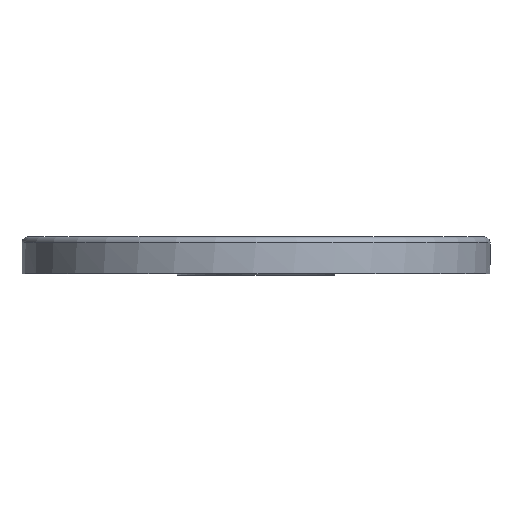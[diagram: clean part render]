
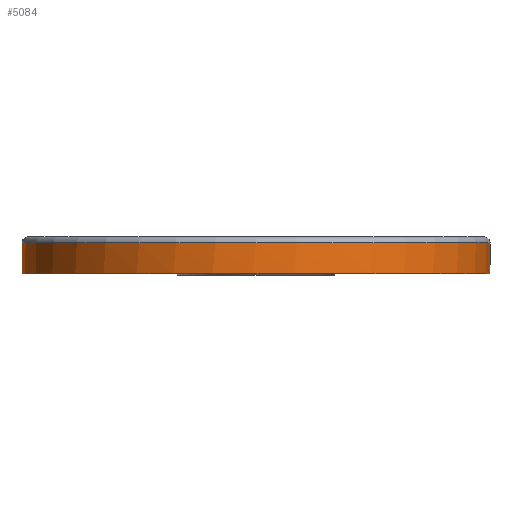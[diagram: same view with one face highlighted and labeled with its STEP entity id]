
A CAD part, left-side view. The second image highlights one B-rep face of the part: STEP entity #5084.
In plain terms, the highlighted cylindrical face has radius 76.5 mm (diameter 153 mm), a full revolution.
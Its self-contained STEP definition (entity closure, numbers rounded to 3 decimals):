
#68=CYLINDRICAL_SURFACE('',#5240,76.5);
#76=CIRCLE('',#5236,76.5);
#77=CIRCLE('',#5237,76.5);
#80=CIRCLE('',#5241,76.5);
#450=B_SPLINE_CURVE_WITH_KNOTS('',3,(#9725,#9726,#9727,#9728,#9729,#9730,
#9731,#9732,#9733,#9734),.UNSPECIFIED.,.F.,.F.,(4,2,2,2,4),(0.226,
0.283,0.339,0.396,0.452),
 .UNSPECIFIED.);
#451=B_SPLINE_CURVE_WITH_KNOTS('',3,(#9735,#9736,#9737,#9738,#9739,#9740,
#9741,#9742,#9743,#9744),.UNSPECIFIED.,.F.,.F.,(4,2,2,2,4),(0.,0.057,
0.113,0.17,0.226),.UNSPECIFIED.);
#912=FACE_OUTER_BOUND('',#1204,.T.);
#1204=EDGE_LOOP('',(#4420,#4421,#4422,#4423,#4424,#4425,#4426,#4427,#4428));
#1608=LINE('',#9694,#1970);
#1612=LINE('',#9703,#1974);
#1614=LINE('',#9755,#1976);
#1970=VECTOR('',#5831,10.);
#1974=VECTOR('',#5837,10.);
#1976=VECTOR('',#5855,76.5);
#2456=VERTEX_POINT('',#9691);
#2457=VERTEX_POINT('',#9693);
#2460=VERTEX_POINT('',#9700);
#2461=VERTEX_POINT('',#9702);
#2462=VERTEX_POINT('',#9724);
#2463=VERTEX_POINT('',#9746);
#2465=VERTEX_POINT('',#9753);
#3187=EDGE_CURVE('',#2457,#2456,#1608,.T.);
#3191=EDGE_CURVE('',#2461,#2460,#1612,.T.);
#3194=EDGE_CURVE('',#2462,#2461,#450,.T.);
#3195=EDGE_CURVE('',#2456,#2462,#451,.T.);
#3196=EDGE_CURVE('',#2457,#2463,#76,.T.);
#3197=EDGE_CURVE('',#2463,#2460,#77,.T.);
#3200=EDGE_CURVE('',#2465,#2465,#80,.T.);
#3201=EDGE_CURVE('',#2465,#2463,#1614,.T.);
#4420=ORIENTED_EDGE('',*,*,#3200,.F.);
#4421=ORIENTED_EDGE('',*,*,#3201,.T.);
#4422=ORIENTED_EDGE('',*,*,#3196,.F.);
#4423=ORIENTED_EDGE('',*,*,#3187,.T.);
#4424=ORIENTED_EDGE('',*,*,#3195,.T.);
#4425=ORIENTED_EDGE('',*,*,#3194,.T.);
#4426=ORIENTED_EDGE('',*,*,#3191,.T.);
#4427=ORIENTED_EDGE('',*,*,#3197,.F.);
#4428=ORIENTED_EDGE('',*,*,#3201,.F.);
#5084=ADVANCED_FACE('',(#912),#68,.T.);
#5236=AXIS2_PLACEMENT_3D('',#9747,#5843,#5844);
#5237=AXIS2_PLACEMENT_3D('',#9748,#5845,#5846);
#5240=AXIS2_PLACEMENT_3D('',#9752,#5851,#5852);
#5241=AXIS2_PLACEMENT_3D('',#9754,#5853,#5854);
#5831=DIRECTION('',(0.,0.,1.));
#5837=DIRECTION('',(0.,0.,-1.));
#5843=DIRECTION('center_axis',(0.,0.,-1.));
#5844=DIRECTION('ref_axis',(-1.,0.,0.));
#5845=DIRECTION('center_axis',(0.,0.,-1.));
#5846=DIRECTION('ref_axis',(-1.,0.,0.));
#5851=DIRECTION('center_axis',(0.,0.,1.));
#5852=DIRECTION('ref_axis',(-1.,0.,0.));
#5853=DIRECTION('center_axis',(0.,0.,1.));
#5854=DIRECTION('ref_axis',(-1.,0.,0.));
#5855=DIRECTION('',(0.,0.,-1.));
#9691=CARTESIAN_POINT('',(-1.5,-76.485,1.499));
#9693=CARTESIAN_POINT('',(-1.5,-76.485,0.));
#9694=CARTESIAN_POINT('',(-1.5,-76.485,0.));
#9700=CARTESIAN_POINT('',(1.5,-76.485,0.));
#9702=CARTESIAN_POINT('',(1.5,-76.485,1.499));
#9703=CARTESIAN_POINT('',(1.5,-76.485,0.));
#9724=CARTESIAN_POINT('',(0.,-76.5,2.999));
#9725=CARTESIAN_POINT('Ctrl Pts',(0.,-76.5,2.999));
#9726=CARTESIAN_POINT('Ctrl Pts',(0.188,-76.5,2.999));
#9727=CARTESIAN_POINT('Ctrl Pts',(0.389,-76.499,2.962));
#9728=CARTESIAN_POINT('Ctrl Pts',(0.759,-76.496,2.809));
#9729=CARTESIAN_POINT('Ctrl Pts',(0.927,-76.494,2.693));
#9730=CARTESIAN_POINT('Ctrl Pts',(1.194,-76.491,2.427));
#9731=CARTESIAN_POINT('Ctrl Pts',(1.309,-76.489,2.258));
#9732=CARTESIAN_POINT('Ctrl Pts',(1.462,-76.486,1.889));
#9733=CARTESIAN_POINT('Ctrl Pts',(1.5,-76.485,1.688));
#9734=CARTESIAN_POINT('Ctrl Pts',(1.5,-76.485,1.499));
#9735=CARTESIAN_POINT('Ctrl Pts',(-1.5,-76.485,1.499));
#9736=CARTESIAN_POINT('Ctrl Pts',(-1.5,-76.485,1.688));
#9737=CARTESIAN_POINT('Ctrl Pts',(-1.462,-76.486,1.889));
#9738=CARTESIAN_POINT('Ctrl Pts',(-1.309,-76.489,2.258));
#9739=CARTESIAN_POINT('Ctrl Pts',(-1.194,-76.491,2.427));
#9740=CARTESIAN_POINT('Ctrl Pts',(-0.927,-76.494,
2.693));
#9741=CARTESIAN_POINT('Ctrl Pts',(-0.759,-76.496,
2.809));
#9742=CARTESIAN_POINT('Ctrl Pts',(-0.389,-76.499,
2.962));
#9743=CARTESIAN_POINT('Ctrl Pts',(-0.188,-76.5,2.999));
#9744=CARTESIAN_POINT('Ctrl Pts',(0.,-76.5,2.999));
#9746=CARTESIAN_POINT('',(76.5,0.,0.));
#9747=CARTESIAN_POINT('Origin',(0.,0.,0.));
#9748=CARTESIAN_POINT('Origin',(0.,0.,0.));
#9752=CARTESIAN_POINT('Origin',(0.,0.,0.));
#9753=CARTESIAN_POINT('',(76.5,0.,10.));
#9754=CARTESIAN_POINT('Origin',(0.,0.,10.));
#9755=CARTESIAN_POINT('',(76.5,0.,0.));
